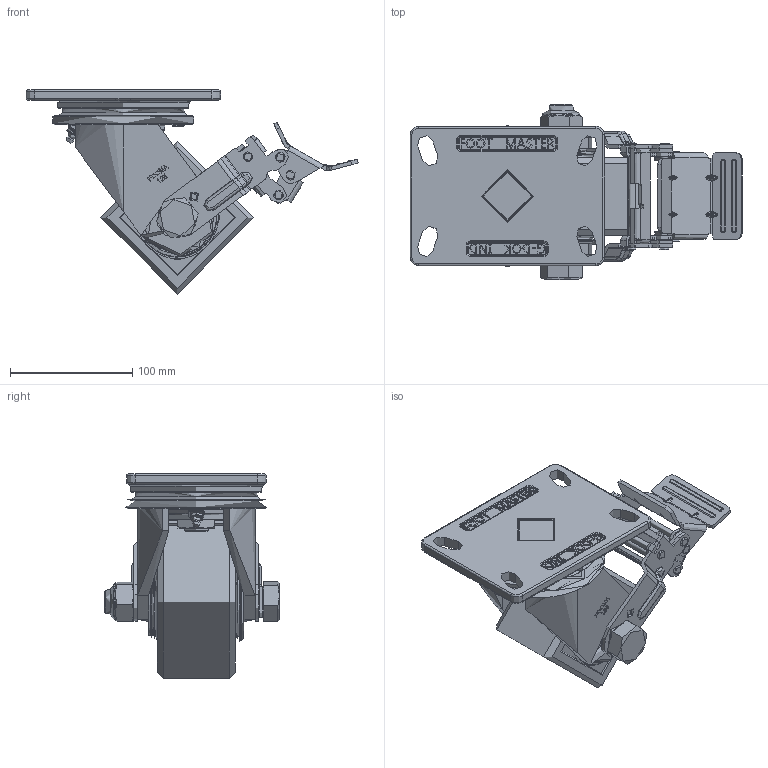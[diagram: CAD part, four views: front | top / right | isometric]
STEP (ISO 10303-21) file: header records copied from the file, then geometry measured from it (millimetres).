
FILE_DESCRIPTION(/* description */ (''),/* implementation_level */ '2;1');
FILE_NAME(/* name */ 'C:\Users\황치선\Desktop\JYS\4.DWG WORK\GF-SERIES 신규 홈페이지용 도면\GF-125-ASF-MCD\GF-125-BSF-MCD.stp',/* time_stamp */ '2019-08-29T19:29:44+09:00',/* author */ ('황치선'),/* organization */ (''),/* preprocessor_version */ 'ST-DEVELOPER v16.13',/* originating_system */ 'Autodesk Inventor 2018',/* authorisation */ '');
FILE_SCHEMA (('AUTOMOTIVE_DESIGN { 1 0 10303 214 3 1 1 }'));
Length unit declared in the file: millimetre
Products named in the file (1): GF-125-BSF-MCD
Bounding box: 271.35 x 143 x 167 mm (x, y, z)
Topology: 6 solids, 15 shells, 2052 faces, 5379 edges, 3387 vertices
Faces by surface type: plane 738, bspline 561, cylinder 536, torus 136, cone 65, sphere 16
Full cylindrical faces by diameter (mm): 4 x4, 6 x5, 6.2 x18, 7 x2, 8 x8, 9.7 x2, 10 x2, 20 x4, 20.2 x4, 24.9 x2, 30 x1, 32.334 x2, 39.666 x2, 59 x1, 64.519 x2, 115 x1, 125 x1
Entity records: 71767 total; most frequent: CARTESIAN_POINT 24785, ORIENTED_EDGE 10300, DIRECTION 8722, EDGE_CURVE 5143, VERTEX_POINT 3315, AXIS2_PLACEMENT_3D 3120, LINE 2482, VECTOR 2482
